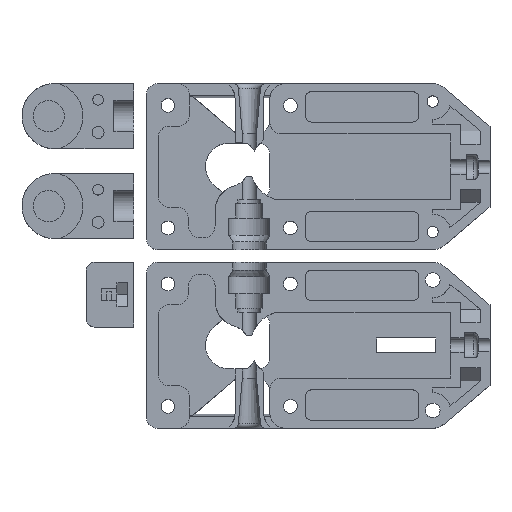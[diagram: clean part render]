
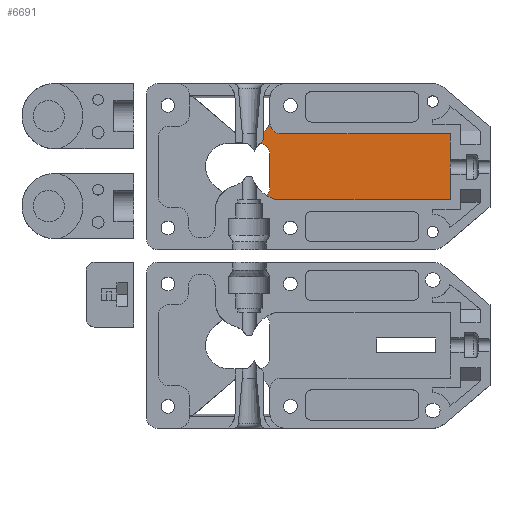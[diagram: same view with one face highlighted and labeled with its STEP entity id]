
A CAD part, top view. The second image highlights one B-rep face of the part: STEP entity #6691.
In plain terms, the highlighted planar face has unit normal (0, 0, 1) as drawn and (0, 0, -1) by its records, which use the part's own axes.
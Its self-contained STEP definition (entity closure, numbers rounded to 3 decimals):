
#915=LINE('',#11210,#1595);
#922=LINE('',#11222,#1602);
#964=LINE('',#11374,#1644);
#992=LINE('',#11471,#1672);
#993=LINE('',#11473,#1673);
#994=LINE('',#11478,#1674);
#1595=VECTOR('',#8795,2.034);
#1602=VECTOR('',#8806,44.252);
#1644=VECTOR('',#8918,0.7);
#1672=VECTOR('',#9012,16.6);
#1673=VECTOR('',#9013,42.71);
#1674=VECTOR('',#9020,8.3);
#1942=PLANE('',#7286);
#2239=FACE_OUTER_BOUND('',#2630,.T.);
#2630=EDGE_LOOP('',(#6030,#6031,#6032,#6033,#6034,#6035,#6036,#6037,#6038,
#6039,#6040,#6041));
#2961=CIRCLE('',#7283,8.6);
#2962=CIRCLE('',#7285,3.);
#2963=CIRCLE('',#7287,8.6);
#2964=CIRCLE('',#7288,3.);
#2965=CIRCLE('',#7289,4.);
#2966=CIRCLE('',#7290,3.);
#3506=VERTEX_POINT('',#11207);
#3507=VERTEX_POINT('',#11209);
#3509=VERTEX_POINT('',#11218);
#3510=VERTEX_POINT('',#11220);
#3536=VERTEX_POINT('',#11371);
#3537=VERTEX_POINT('',#11373);
#3553=VERTEX_POINT('',#11441);
#3555=VERTEX_POINT('',#11463);
#3556=VERTEX_POINT('',#11465);
#3557=VERTEX_POINT('',#11470);
#3558=VERTEX_POINT('',#11472);
#3559=VERTEX_POINT('',#11476);
#4324=EDGE_CURVE('',#3506,#3507,#915,.T.);
#4331=EDGE_CURVE('',#3510,#3509,#922,.T.);
#4384=EDGE_CURVE('',#3536,#3537,#964,.T.);
#4417=EDGE_CURVE('',#3506,#3553,#2961,.T.);
#4422=EDGE_CURVE('',#3556,#3555,#2962,.T.);
#4424=EDGE_CURVE('',#3509,#3555,#2963,.T.);
#4425=EDGE_CURVE('',#3510,#3557,#992,.T.);
#4426=EDGE_CURVE('',#3558,#3557,#993,.T.);
#4427=EDGE_CURVE('',#3537,#3558,#2964,.F.);
#4428=EDGE_CURVE('',#3507,#3536,#2965,.F.);
#4429=EDGE_CURVE('',#3553,#3559,#2966,.T.);
#4430=EDGE_CURVE('',#3559,#3556,#994,.T.);
#6030=ORIENTED_EDGE('',*,*,#4424,.F.);
#6031=ORIENTED_EDGE('',*,*,#4331,.F.);
#6032=ORIENTED_EDGE('',*,*,#4425,.T.);
#6033=ORIENTED_EDGE('',*,*,#4426,.F.);
#6034=ORIENTED_EDGE('',*,*,#4427,.F.);
#6035=ORIENTED_EDGE('',*,*,#4384,.F.);
#6036=ORIENTED_EDGE('',*,*,#4428,.F.);
#6037=ORIENTED_EDGE('',*,*,#4324,.F.);
#6038=ORIENTED_EDGE('',*,*,#4417,.T.);
#6039=ORIENTED_EDGE('',*,*,#4429,.T.);
#6040=ORIENTED_EDGE('',*,*,#4430,.T.);
#6041=ORIENTED_EDGE('',*,*,#4422,.T.);
#6691=ADVANCED_FACE('',(#2239),#1942,.F.);
#7283=AXIS2_PLACEMENT_3D('',#11442,#8998,#8999);
#7285=AXIS2_PLACEMENT_3D('',#11466,#9005,#9006);
#7286=AXIS2_PLACEMENT_3D('',#11468,#9008,#9009);
#7287=AXIS2_PLACEMENT_3D('',#11469,#9010,#9011);
#7288=AXIS2_PLACEMENT_3D('',#11474,#9014,#9015);
#7289=AXIS2_PLACEMENT_3D('',#11475,#9016,#9017);
#7290=AXIS2_PLACEMENT_3D('',#11477,#9018,#9019);
#8795=DIRECTION('',(0.,-1.,0.));
#8806=DIRECTION('',(-1.,0.,0.));
#8918=DIRECTION('',(0.,1.,0.));
#8998=DIRECTION('center_axis',(0.,0.,-1.));
#8999=DIRECTION('ref_axis',(1.,0.,0.));
#9005=DIRECTION('center_axis',(0.,0.,1.));
#9006=DIRECTION('ref_axis',(1.,0.,0.));
#9008=DIRECTION('center_axis',(0.,0.,1.));
#9009=DIRECTION('ref_axis',(1.,0.,0.));
#9010=DIRECTION('center_axis',(0.,0.,1.));
#9011=DIRECTION('ref_axis',(0.262,-0.965,0.));
#9012=DIRECTION('',(0.,-1.,0.));
#9013=DIRECTION('',(1.,0.,0.));
#9014=DIRECTION('center_axis',(0.,0.,1.));
#9015=DIRECTION('ref_axis',(1.,0.,0.));
#9016=DIRECTION('center_axis',(0.,0.,1.));
#9017=DIRECTION('ref_axis',(1.,0.,0.));
#9018=DIRECTION('center_axis',(0.,0.,1.));
#9019=DIRECTION('ref_axis',(1.,0.,0.));
#9020=DIRECTION('',(0.,1.,0.));
#11207=CARTESIAN_POINT('',(8.734,-6.799,-3.6));
#11209=CARTESIAN_POINT('',(8.734,-8.834,-3.6));
#11210=CARTESIAN_POINT('',(8.734,-6.799,-3.6));
#11218=CARTESIAN_POINT('',(11.748,8.3,-3.6));
#11220=CARTESIAN_POINT('',(56.,8.3,-3.6));
#11222=CARTESIAN_POINT('',(56.,8.3,-3.6));
#11371=CARTESIAN_POINT('',(10.29,-12.,-3.6));
#11373=CARTESIAN_POINT('',(10.29,-11.3,-3.6));
#11374=CARTESIAN_POINT('',(10.29,-12.,-3.6));
#11441=CARTESIAN_POINT('',(7.802,-5.962,-3.6));
#11442=CARTESIAN_POINT('Origin',(14.,0.,-3.6));
#11463=CARTESIAN_POINT('',(9.522,7.342,-3.6));
#11465=CARTESIAN_POINT('',(10.325,5.3,-3.6));
#11466=CARTESIAN_POINT('Origin',(7.325,5.3,-3.6));
#11468=CARTESIAN_POINT('Origin',(0.,0.,-3.6));
#11469=CARTESIAN_POINT('Origin',(14.,0.,-3.6));
#11470=CARTESIAN_POINT('',(56.,-8.3,-3.6));
#11471=CARTESIAN_POINT('',(56.,8.3,-3.6));
#11472=CARTESIAN_POINT('',(13.29,-8.3,-3.6));
#11473=CARTESIAN_POINT('',(13.29,-8.3,-3.6));
#11474=CARTESIAN_POINT('Origin',(13.29,-11.3,-3.6));
#11475=CARTESIAN_POINT('Origin',(6.29,-12.,-3.6));
#11476=CARTESIAN_POINT('',(10.325,-3.,-3.6));
#11477=CARTESIAN_POINT('Origin',(7.325,-3.,-3.6));
#11478=CARTESIAN_POINT('',(10.325,-3.,-3.6));
